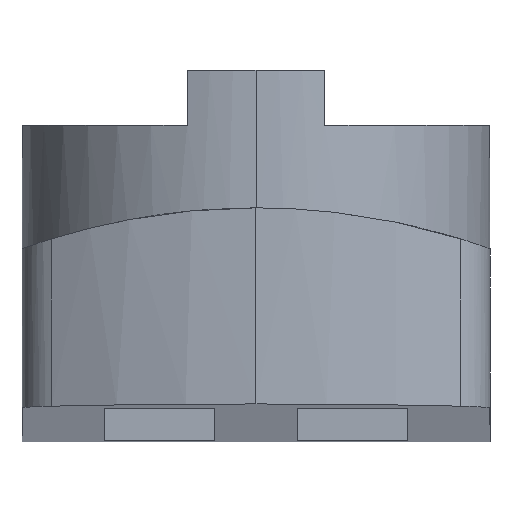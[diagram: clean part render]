
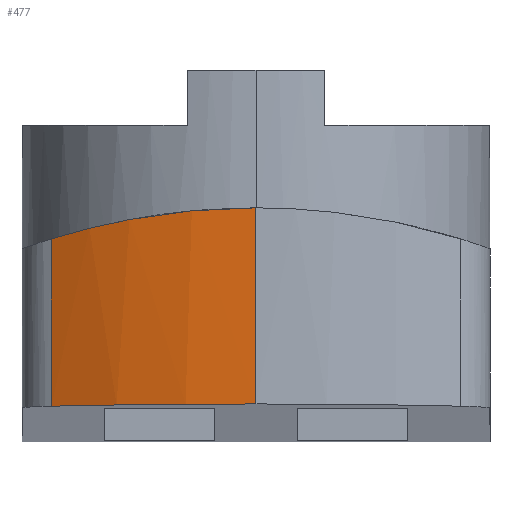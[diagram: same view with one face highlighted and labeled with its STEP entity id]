
A CAD part, left-side view. The second image highlights one B-rep face of the part: STEP entity #477.
In plain terms, the highlighted cylindrical face has radius 16 mm (diameter 32 mm), a partial arc.
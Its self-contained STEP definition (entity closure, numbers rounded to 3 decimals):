
#27 = CARTESIAN_POINT ( 'NONE',  ( -39.84, 2.598, 8.397 ) ) ;
#41 = EDGE_CURVE ( 'NONE', #321, #1512, #298, .T. ) ;
#213 = CARTESIAN_POINT ( 'NONE',  ( -40., 1.316, 8.5 ) ) ;
#224 = CARTESIAN_POINT ( 'NONE',  ( -38.171, 7.429, 7.371 ) ) ;
#231 = CYLINDRICAL_SURFACE ( 'NONE', #1012, 16. ) ;
#237 = ORIENTED_EDGE ( 'NONE', *, *, #1797, .F. ) ;
#257 = CARTESIAN_POINT ( 'NONE',  ( -40., 0., 8.5 ) ) ;
#278 = FACE_OUTER_BOUND ( 'NONE', #1189, .T. ) ;
#298 = B_SPLINE_CURVE_WITH_KNOTS ( 'NONE', 3,
 ( #668, #213, #27, #719, #353, #1527, #1268, #224 ),
 .UNSPECIFIED., .F., .F.,
 ( 4, 2, 2, 4 ),
 ( 0., 0.004, 0.006, 0.008 ),
 .UNSPECIFIED. ) ;
#321 = VERTEX_POINT ( 'NONE', #257 ) ;
#353 = CARTESIAN_POINT ( 'NONE',  ( -39.181, 5.093, 7.983 ) ) ;
#408 =( BOUNDED_CURVE ( )  B_SPLINE_CURVE ( 3, ( #1216, #1206, #1244, #1250 ),
 .UNSPECIFIED., .F., .T. ) 
 B_SPLINE_CURVE_WITH_KNOTS ( ( 4, 4 ),
 ( 2.659, 3.142 ),
 .UNSPECIFIED. ) 
 CURVE ( )  GEOMETRIC_REPRESENTATION_ITEM ( )  RATIONAL_B_SPLINE_CURVE ( ( 1., 0.981, 0.981, 1. ) ) 
 REPRESENTATION_ITEM ( '' )  );
#477 = ADVANCED_FACE ( 'NONE', ( #278 ), #231, .T. ) ;
#577 = DIRECTION ( 'NONE',  ( 0., 0., -1. ) ) ;
#597 = DIRECTION ( 'NONE',  ( -1., 0., 0. ) ) ;
#623 = VERTEX_POINT ( 'NONE', #1023 ) ;
#665 = DIRECTION ( 'NONE',  ( 0., 0., -1. ) ) ;
#668 = CARTESIAN_POINT ( 'NONE',  ( -40., 0., 8.5 ) ) ;
#675 = CARTESIAN_POINT ( 'NONE',  ( -40., 0., 8.5 ) ) ;
#719 = CARTESIAN_POINT ( 'NONE',  ( -39.375, 4.474, 8.105 ) ) ;
#805 = VECTOR ( 'NONE', #665, 1000. ) ;
#869 = EDGE_CURVE ( 'NONE', #1512, #1893, #1558, .T. ) ;
#1012 = AXIS2_PLACEMENT_3D ( 'NONE', #1215, #1087, #597 ) ;
#1023 = CARTESIAN_POINT ( 'NONE',  ( -40., 0., 1.375 ) ) ;
#1076 = CARTESIAN_POINT ( 'NONE',  ( -38.171, 7.429, 7.371 ) ) ;
#1087 = DIRECTION ( 'NONE',  ( 0., 0., -1. ) ) ;
#1098 = CARTESIAN_POINT ( 'NONE',  ( -38.171, 7.429, 8.5 ) ) ;
#1189 = EDGE_LOOP ( 'NONE', ( #237, #1465, #1738, #1368 ) ) ;
#1206 = CARTESIAN_POINT ( 'NONE',  ( -39.378, 5.125, 1.348 ) ) ;
#1215 = CARTESIAN_POINT ( 'NONE',  ( -24., 0., 8.5 ) ) ;
#1216 = CARTESIAN_POINT ( 'NONE',  ( -38.171, 7.429, 1.295 ) ) ;
#1244 = CARTESIAN_POINT ( 'NONE',  ( -40., 2.6, 1.375 ) ) ;
#1250 = CARTESIAN_POINT ( 'NONE',  ( -40., 0., 1.375 ) ) ;
#1268 = CARTESIAN_POINT ( 'NONE',  ( -38.465, 6.867, 7.545 ) ) ;
#1368 = ORIENTED_EDGE ( 'NONE', *, *, #1582, .T. ) ;
#1465 = ORIENTED_EDGE ( 'NONE', *, *, #41, .T. ) ;
#1495 = VECTOR ( 'NONE', #577, 1000. ) ;
#1512 = VERTEX_POINT ( 'NONE', #1076 ) ;
#1527 = CARTESIAN_POINT ( 'NONE',  ( -38.726, 6.288, 7.704 ) ) ;
#1558 = LINE ( 'NONE', #1098, #1495 ) ;
#1582 = EDGE_CURVE ( 'NONE', #1893, #623, #408, .T. ) ;
#1648 = CARTESIAN_POINT ( 'NONE',  ( -38.171, 7.429, 1.295 ) ) ;
#1738 = ORIENTED_EDGE ( 'NONE', *, *, #869, .T. ) ;
#1797 = EDGE_CURVE ( 'NONE', #321, #623, #1843, .T. ) ;
#1843 = LINE ( 'NONE', #675, #805 ) ;
#1893 = VERTEX_POINT ( 'NONE', #1648 ) ;
